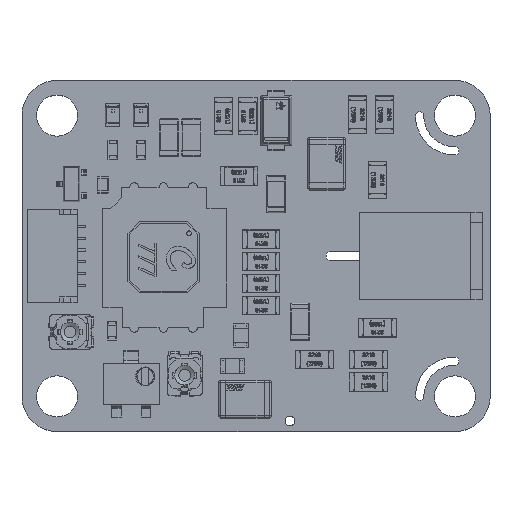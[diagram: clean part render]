
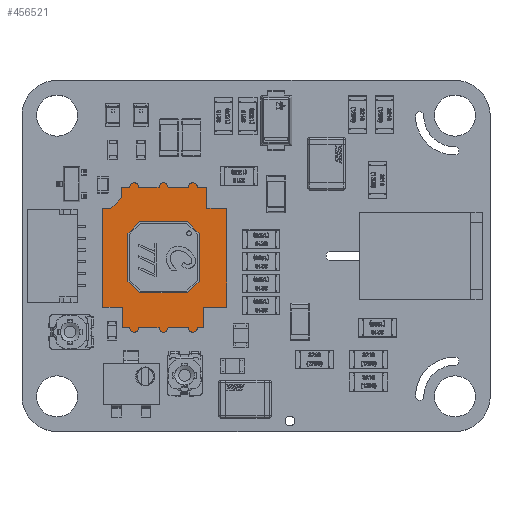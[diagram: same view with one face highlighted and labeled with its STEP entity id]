
A CAD part, top view. The second image highlights one B-rep face of the part: STEP entity #456521.
In plain terms, the highlighted planar face has unit normal (0, 0, 1).
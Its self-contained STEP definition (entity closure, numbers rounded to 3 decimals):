
#455749 = VERTEX_POINT('',#455750);
#455750 = CARTESIAN_POINT('',(4.813,0.,
    0.));
#455756 = EDGE_CURVE('',#455757,#455749,#455759,.T.);
#455757 = VERTEX_POINT('',#455758);
#455758 = CARTESIAN_POINT('',(3.086,0.,
    0.));
#455759 = LINE('',#455760,#455761);
#455760 = CARTESIAN_POINT('',(3.086,0.,
    0.));
#455761 = VECTOR('',#455762,1.);
#455762 = DIRECTION('',(1.,0.,0.));
#455788 = VERTEX_POINT('',#455789);
#455789 = CARTESIAN_POINT('',(5.586,0.,
    0.));
#455795 = EDGE_CURVE('',#455749,#455788,#455796,.T.);
#455796 = CIRCLE('',#455797,0.387);
#455797 = AXIS2_PLACEMENT_3D('',#455798,#455799,#455800);
#455798 = CARTESIAN_POINT('',(5.2,0.,0.));
#455799 = DIRECTION('',(0.,0.,1.));
#455800 = DIRECTION('',(-1.,0.,0.));
#455820 = VERTEX_POINT('',#455821);
#455821 = CARTESIAN_POINT('',(7.313,0.,
    0.));
#455827 = EDGE_CURVE('',#455788,#455820,#455828,.T.);
#455828 = LINE('',#455829,#455830);
#455829 = CARTESIAN_POINT('',(5.586,0.,
    0.));
#455830 = VECTOR('',#455831,1.);
#455831 = DIRECTION('',(1.,0.,0.));
#455852 = VERTEX_POINT('',#455853);
#455853 = CARTESIAN_POINT('',(8.086,0.,
    0.));
#455859 = EDGE_CURVE('',#455820,#455852,#455860,.T.);
#455860 = CIRCLE('',#455861,0.387);
#455861 = AXIS2_PLACEMENT_3D('',#455862,#455863,#455864);
#455862 = CARTESIAN_POINT('',(7.7,0.,0.));
#455863 = DIRECTION('',(0.,0.,1.));
#455864 = DIRECTION('',(-1.,0.,0.));
#455884 = VERTEX_POINT('',#455885);
#455885 = CARTESIAN_POINT('',(8.6,0.,
    0.));
#455891 = EDGE_CURVE('',#455852,#455884,#455892,.T.);
#455892 = LINE('',#455893,#455894);
#455893 = CARTESIAN_POINT('',(8.086,0.,
    0.));
#455894 = VECTOR('',#455895,1.);
#455895 = DIRECTION('',(1.,0.,0.));
#455915 = VERTEX_POINT('',#455916);
#455916 = CARTESIAN_POINT('',(8.6,1.75,
    0.));
#455922 = EDGE_CURVE('',#455884,#455915,#455923,.T.);
#455923 = LINE('',#455924,#455925);
#455924 = CARTESIAN_POINT('',(8.6,0.,
    0.));
#455925 = VECTOR('',#455926,1.);
#455926 = DIRECTION('',(0.,1.,0.));
#455946 = VERTEX_POINT('',#455947);
#455947 = CARTESIAN_POINT('',(10.6,1.75,
    0.));
#455953 = EDGE_CURVE('',#455915,#455946,#455954,.T.);
#455954 = LINE('',#455955,#455956);
#455955 = CARTESIAN_POINT('',(8.6,1.75,
    0.));
#455956 = VECTOR('',#455957,1.);
#455957 = DIRECTION('',(1.,0.,0.));
#455977 = VERTEX_POINT('',#455978);
#455978 = CARTESIAN_POINT('',(10.6,10.2,
    0.));
#455984 = EDGE_CURVE('',#455946,#455977,#455985,.T.);
#455985 = LINE('',#455986,#455987);
#455986 = CARTESIAN_POINT('',(10.6,1.75,
    0.));
#455987 = VECTOR('',#455988,1.);
#455988 = DIRECTION('',(0.,1.,0.));
#456008 = VERTEX_POINT('',#456009);
#456009 = CARTESIAN_POINT('',(8.9,10.2,
    0.));
#456015 = EDGE_CURVE('',#455977,#456008,#456016,.T.);
#456016 = LINE('',#456017,#456018);
#456017 = CARTESIAN_POINT('',(10.6,10.2,
    0.));
#456018 = VECTOR('',#456019,1.);
#456019 = DIRECTION('',(-1.,0.,0.));
#456039 = VERTEX_POINT('',#456040);
#456040 = CARTESIAN_POINT('',(8.9,12.,
    0.));
#456046 = EDGE_CURVE('',#456008,#456039,#456047,.T.);
#456047 = LINE('',#456048,#456049);
#456048 = CARTESIAN_POINT('',(8.9,10.2,
    0.));
#456049 = VECTOR('',#456050,1.);
#456050 = DIRECTION('',(0.,1.,0.));
#456070 = VERTEX_POINT('',#456071);
#456071 = CARTESIAN_POINT('',(8.086,12.,
    0.));
#456077 = EDGE_CURVE('',#456039,#456070,#456078,.T.);
#456078 = LINE('',#456079,#456080);
#456079 = CARTESIAN_POINT('',(8.9,12.,
    0.));
#456080 = VECTOR('',#456081,1.);
#456081 = DIRECTION('',(-1.,0.,0.));
#456102 = VERTEX_POINT('',#456103);
#456103 = CARTESIAN_POINT('',(7.313,12.,
    0.));
#456109 = EDGE_CURVE('',#456070,#456102,#456110,.T.);
#456110 = CIRCLE('',#456111,0.387);
#456111 = AXIS2_PLACEMENT_3D('',#456112,#456113,#456114);
#456112 = CARTESIAN_POINT('',(7.7,12.,
    0.));
#456113 = DIRECTION('',(0.,0.,1.));
#456114 = DIRECTION('',(1.,0.,-0.));
#456134 = VERTEX_POINT('',#456135);
#456135 = CARTESIAN_POINT('',(5.586,12.,
    0.));
#456141 = EDGE_CURVE('',#456102,#456134,#456142,.T.);
#456142 = LINE('',#456143,#456144);
#456143 = CARTESIAN_POINT('',(7.313,12.,
    0.));
#456144 = VECTOR('',#456145,1.);
#456145 = DIRECTION('',(-1.,0.,0.));
#456166 = VERTEX_POINT('',#456167);
#456167 = CARTESIAN_POINT('',(4.813,12.,
    0.));
#456173 = EDGE_CURVE('',#456134,#456166,#456174,.T.);
#456174 = CIRCLE('',#456175,0.387);
#456175 = AXIS2_PLACEMENT_3D('',#456176,#456177,#456178);
#456176 = CARTESIAN_POINT('',(5.2,12.,
    0.));
#456177 = DIRECTION('',(0.,0.,1.));
#456178 = DIRECTION('',(1.,0.,-0.));
#456198 = VERTEX_POINT('',#456199);
#456199 = CARTESIAN_POINT('',(3.086,12.,
    0.));
#456205 = EDGE_CURVE('',#456166,#456198,#456206,.T.);
#456206 = LINE('',#456207,#456208);
#456207 = CARTESIAN_POINT('',(4.813,12.,
    0.));
#456208 = VECTOR('',#456209,1.);
#456209 = DIRECTION('',(-1.,0.,0.));
#456230 = VERTEX_POINT('',#456231);
#456231 = CARTESIAN_POINT('',(2.313,12.,
    0.));
#456237 = EDGE_CURVE('',#456198,#456230,#456238,.T.);
#456238 = CIRCLE('',#456239,0.387);
#456239 = AXIS2_PLACEMENT_3D('',#456240,#456241,#456242);
#456240 = CARTESIAN_POINT('',(2.7,12.,
    0.));
#456241 = DIRECTION('',(0.,0.,1.));
#456242 = DIRECTION('',(1.,0.,-0.));
#456262 = VERTEX_POINT('',#456263);
#456263 = CARTESIAN_POINT('',(1.6,12.,
    0.));
#456269 = EDGE_CURVE('',#456230,#456262,#456270,.T.);
#456270 = LINE('',#456271,#456272);
#456271 = CARTESIAN_POINT('',(2.313,12.,
    0.));
#456272 = VECTOR('',#456273,1.);
#456273 = DIRECTION('',(-1.,0.,0.));
#456293 = VERTEX_POINT('',#456294);
#456294 = CARTESIAN_POINT('',(1.6,11.1,
    0.));
#456300 = EDGE_CURVE('',#456262,#456293,#456301,.T.);
#456301 = LINE('',#456302,#456303);
#456302 = CARTESIAN_POINT('',(1.6,12.,
    0.));
#456303 = VECTOR('',#456304,1.);
#456304 = DIRECTION('',(0.,-1.,0.));
#456324 = VERTEX_POINT('',#456325);
#456325 = CARTESIAN_POINT('',(0.7,10.2,
    0.));
#456331 = EDGE_CURVE('',#456293,#456324,#456332,.T.);
#456332 = LINE('',#456333,#456334);
#456333 = CARTESIAN_POINT('',(1.6,11.1,
    0.));
#456334 = VECTOR('',#456335,1.);
#456335 = DIRECTION('',(-0.707,-0.707,0.));
#456355 = VERTEX_POINT('',#456356);
#456356 = CARTESIAN_POINT('',(0.,10.2,
    0.));
#456362 = EDGE_CURVE('',#456324,#456355,#456363,.T.);
#456363 = LINE('',#456364,#456365);
#456364 = CARTESIAN_POINT('',(0.7,10.2,
    0.));
#456365 = VECTOR('',#456366,1.);
#456366 = DIRECTION('',(-1.,0.,0.));
#456386 = VERTEX_POINT('',#456387);
#456387 = CARTESIAN_POINT('',(0.,1.75,
    0.));
#456393 = EDGE_CURVE('',#456355,#456386,#456394,.T.);
#456394 = LINE('',#456395,#456396);
#456395 = CARTESIAN_POINT('',(0.,10.2,
    0.));
#456396 = VECTOR('',#456397,1.);
#456397 = DIRECTION('',(0.,-1.,0.));
#456417 = VERTEX_POINT('',#456418);
#456418 = CARTESIAN_POINT('',(1.7,1.75,
    0.));
#456424 = EDGE_CURVE('',#456386,#456417,#456425,.T.);
#456425 = LINE('',#456426,#456427);
#456426 = CARTESIAN_POINT('',(0.,1.75,
    0.));
#456427 = VECTOR('',#456428,1.);
#456428 = DIRECTION('',(1.,0.,0.));
#456448 = VERTEX_POINT('',#456449);
#456449 = CARTESIAN_POINT('',(1.7,0.,
    0.));
#456455 = EDGE_CURVE('',#456417,#456448,#456456,.T.);
#456456 = LINE('',#456457,#456458);
#456457 = CARTESIAN_POINT('',(1.7,1.75,
    0.));
#456458 = VECTOR('',#456459,1.);
#456459 = DIRECTION('',(0.,-1.,0.));
#456479 = VERTEX_POINT('',#456480);
#456480 = CARTESIAN_POINT('',(2.313,0.,
    0.));
#456486 = EDGE_CURVE('',#456448,#456479,#456487,.T.);
#456487 = LINE('',#456488,#456489);
#456488 = CARTESIAN_POINT('',(1.7,0.,
    0.));
#456489 = VECTOR('',#456490,1.);
#456490 = DIRECTION('',(1.,0.,0.));
#456509 = EDGE_CURVE('',#456479,#455757,#456510,.T.);
#456510 = CIRCLE('',#456511,0.387);
#456511 = AXIS2_PLACEMENT_3D('',#456512,#456513,#456514);
#456512 = CARTESIAN_POINT('',(2.7,0.,0.));
#456513 = DIRECTION('',(0.,0.,1.));
#456514 = DIRECTION('',(-1.,0.,0.));
#456521 = ADVANCED_FACE('',(#456522),#456549,.T.);
#456522 = FACE_BOUND('',#456523,.T.);
#456523 = EDGE_LOOP('',(#456524,#456525,#456526,#456527,#456528,#456529,
    #456530,#456531,#456532,#456533,#456534,#456535,#456536,#456537,
    #456538,#456539,#456540,#456541,#456542,#456543,#456544,#456545,
    #456546,#456547,#456548));
#456524 = ORIENTED_EDGE('',*,*,#455756,.T.);
#456525 = ORIENTED_EDGE('',*,*,#455795,.T.);
#456526 = ORIENTED_EDGE('',*,*,#455827,.T.);
#456527 = ORIENTED_EDGE('',*,*,#455859,.T.);
#456528 = ORIENTED_EDGE('',*,*,#455891,.T.);
#456529 = ORIENTED_EDGE('',*,*,#455922,.T.);
#456530 = ORIENTED_EDGE('',*,*,#455953,.T.);
#456531 = ORIENTED_EDGE('',*,*,#455984,.T.);
#456532 = ORIENTED_EDGE('',*,*,#456015,.T.);
#456533 = ORIENTED_EDGE('',*,*,#456046,.T.);
#456534 = ORIENTED_EDGE('',*,*,#456077,.T.);
#456535 = ORIENTED_EDGE('',*,*,#456109,.T.);
#456536 = ORIENTED_EDGE('',*,*,#456141,.T.);
#456537 = ORIENTED_EDGE('',*,*,#456173,.T.);
#456538 = ORIENTED_EDGE('',*,*,#456205,.T.);
#456539 = ORIENTED_EDGE('',*,*,#456237,.T.);
#456540 = ORIENTED_EDGE('',*,*,#456269,.T.);
#456541 = ORIENTED_EDGE('',*,*,#456300,.T.);
#456542 = ORIENTED_EDGE('',*,*,#456331,.T.);
#456543 = ORIENTED_EDGE('',*,*,#456362,.T.);
#456544 = ORIENTED_EDGE('',*,*,#456393,.T.);
#456545 = ORIENTED_EDGE('',*,*,#456424,.T.);
#456546 = ORIENTED_EDGE('',*,*,#456455,.T.);
#456547 = ORIENTED_EDGE('',*,*,#456486,.T.);
#456548 = ORIENTED_EDGE('',*,*,#456509,.T.);
#456549 = PLANE('',#456550);
#456550 = AXIS2_PLACEMENT_3D('',#456551,#456552,#456553);
#456551 = CARTESIAN_POINT('',(0.,0.,0.));
#456552 = DIRECTION('',(0.,0.,1.));
#456553 = DIRECTION('',(1.,0.,-0.));
